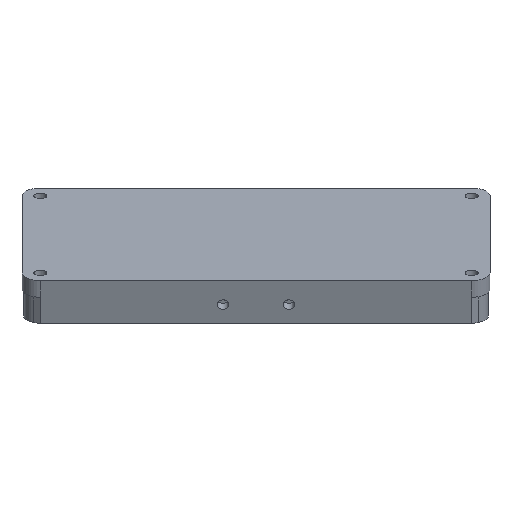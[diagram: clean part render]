
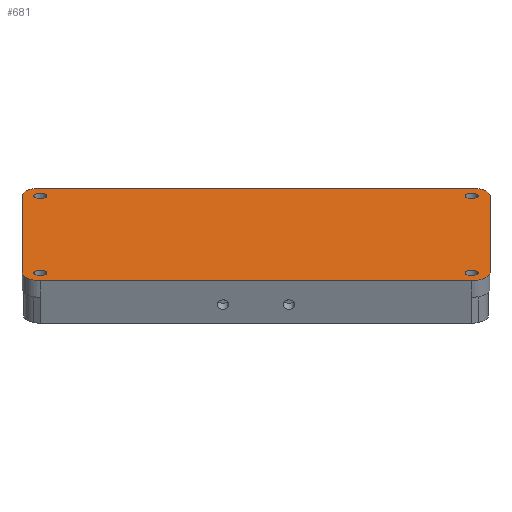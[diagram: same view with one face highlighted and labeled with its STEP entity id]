
A CAD part, top view. The second image highlights one B-rep face of the part: STEP entity #681.
In plain terms, the highlighted planar face has unit normal (0, 0.906, 0.423).
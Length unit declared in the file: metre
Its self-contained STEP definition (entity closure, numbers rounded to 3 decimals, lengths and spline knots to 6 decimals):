
#46=CIRCLE('',#752,0.0018);
#47=CIRCLE('',#753,0.0018);
#48=CIRCLE('',#754,0.0018);
#49=CIRCLE('',#755,0.0018);
#50=CIRCLE('',#756,0.005);
#51=CIRCLE('',#757,0.005);
#52=CIRCLE('',#758,0.005);
#53=CIRCLE('',#759,0.005);
#116=ORIENTED_EDGE('',*,*,#302,.T.);
#117=ORIENTED_EDGE('',*,*,#303,.T.);
#118=ORIENTED_EDGE('',*,*,#304,.T.);
#119=ORIENTED_EDGE('',*,*,#305,.T.);
#120=ORIENTED_EDGE('',*,*,#301,.T.);
#121=ORIENTED_EDGE('',*,*,#306,.T.);
#122=ORIENTED_EDGE('',*,*,#291,.F.);
#123=ORIENTED_EDGE('',*,*,#307,.T.);
#124=ORIENTED_EDGE('',*,*,#285,.F.);
#125=ORIENTED_EDGE('',*,*,#308,.T.);
#126=ORIENTED_EDGE('',*,*,#282,.T.);
#127=ORIENTED_EDGE('',*,*,#309,.T.);
#282=EDGE_CURVE('',#376,#377,#429,.T.);
#285=EDGE_CURVE('',#378,#379,#432,.T.);
#291=EDGE_CURVE('',#382,#383,#438,.T.);
#301=EDGE_CURVE('',#386,#389,#446,.T.);
#302=EDGE_CURVE('',#390,#390,#46,.T.);
#303=EDGE_CURVE('',#391,#391,#47,.T.);
#304=EDGE_CURVE('',#392,#392,#48,.T.);
#305=EDGE_CURVE('',#393,#393,#49,.T.);
#306=EDGE_CURVE('',#389,#383,#50,.F.);
#307=EDGE_CURVE('',#382,#379,#51,.F.);
#308=EDGE_CURVE('',#378,#376,#52,.F.);
#309=EDGE_CURVE('',#377,#386,#53,.F.);
#376=VERTEX_POINT('',#1083);
#377=VERTEX_POINT('',#1084);
#378=VERTEX_POINT('',#1089);
#379=VERTEX_POINT('',#1090);
#382=VERTEX_POINT('',#1100);
#383=VERTEX_POINT('',#1101);
#386=VERTEX_POINT('',#1110);
#389=VERTEX_POINT('',#1117);
#390=VERTEX_POINT('',#1121);
#391=VERTEX_POINT('',#1123);
#392=VERTEX_POINT('',#1125);
#393=VERTEX_POINT('',#1127);
#429=LINE('',#1082,#485);
#432=LINE('',#1088,#488);
#438=LINE('',#1099,#494);
#446=LINE('',#1118,#502);
#485=VECTOR('',#855,1.);
#488=VECTOR('',#860,1.);
#494=VECTOR('',#868,1.);
#502=VECTOR('',#882,1.);
#539=EDGE_LOOP('',(#116));
#540=EDGE_LOOP('',(#117));
#541=EDGE_LOOP('',(#118));
#542=EDGE_LOOP('',(#119));
#543=EDGE_LOOP('',(#120,#121,#122,#123,#124,#125,#126,#127));
#601=FACE_BOUND('',#539,.T.);
#602=FACE_BOUND('',#540,.T.);
#603=FACE_BOUND('',#541,.T.);
#604=FACE_BOUND('',#542,.T.);
#605=FACE_BOUND('',#543,.T.);
#658=PLANE('',#751);
#681=ADVANCED_FACE('',(#601,#602,#603,#604,#605),#658,.F.);
#751=AXIS2_PLACEMENT_3D('',#1119,#883,#884);
#752=AXIS2_PLACEMENT_3D('',#1120,#885,#886);
#753=AXIS2_PLACEMENT_3D('',#1122,#887,#888);
#754=AXIS2_PLACEMENT_3D('',#1124,#889,#890);
#755=AXIS2_PLACEMENT_3D('',#1126,#891,#892);
#756=AXIS2_PLACEMENT_3D('',#1128,#893,#894);
#757=AXIS2_PLACEMENT_3D('',#1129,#895,#896);
#758=AXIS2_PLACEMENT_3D('',#1130,#897,#898);
#759=AXIS2_PLACEMENT_3D('',#1131,#899,#900);
#855=DIRECTION('',(0.,-0.423,0.906));
#860=DIRECTION('',(1.,0.,0.));
#868=DIRECTION('',(0.,-0.423,0.906));
#882=DIRECTION('',(1.,0.,0.));
#883=DIRECTION('',(0.,-0.906,-0.423));
#884=DIRECTION('',(1.,0.,0.));
#885=DIRECTION('',(0.,-0.906,-0.423));
#886=DIRECTION('',(1.,0.,0.));
#887=DIRECTION('',(0.,-0.906,-0.423));
#888=DIRECTION('',(1.,0.,0.));
#889=DIRECTION('',(0.,-0.906,-0.423));
#890=DIRECTION('',(1.,0.,0.));
#891=DIRECTION('',(0.,-0.906,-0.423));
#892=DIRECTION('',(1.,0.,0.));
#893=DIRECTION('',(0.,-0.906,-0.423));
#894=DIRECTION('',(1.,0.,0.));
#895=DIRECTION('',(0.,-0.906,-0.423));
#896=DIRECTION('',(1.,0.,0.));
#897=DIRECTION('',(0.,-0.906,-0.423));
#898=DIRECTION('',(1.,0.,0.));
#899=DIRECTION('',(0.,-0.906,-0.423));
#900=DIRECTION('',(1.,0.,0.));
#1082=CARTESIAN_POINT('',(-0.063923,-0.213921,-0.002171));
#1083=CARTESIAN_POINT('',(-0.063923,-0.203356,-0.024829));
#1084=CARTESIAN_POINT('',(-0.063923,-0.224487,0.020487));
#1088=CARTESIAN_POINT('',(0.,-0.201243,-0.02936));
#1089=CARTESIAN_POINT('',(-0.058923,-0.201243,-0.02936));
#1090=CARTESIAN_POINT('',(0.058923,-0.201243,-0.02936));
#1099=CARTESIAN_POINT('',(0.063923,-0.213921,-0.002171));
#1100=CARTESIAN_POINT('',(0.063923,-0.203356,-0.024829));
#1101=CARTESIAN_POINT('',(0.063923,-0.224487,0.020487));
#1110=CARTESIAN_POINT('',(-0.058923,-0.2266,0.025018));
#1117=CARTESIAN_POINT('',(0.058923,-0.2266,0.025018));
#1118=CARTESIAN_POINT('',(0.,-0.2266,0.025018));
#1119=CARTESIAN_POINT('',(0.,-0.213921,-0.002171));
#1120=CARTESIAN_POINT('',(0.058923,-0.203356,-0.024829));
#1121=CARTESIAN_POINT('',(0.060723,-0.203356,-0.024829));
#1122=CARTESIAN_POINT('',(-0.058923,-0.203356,-0.024829));
#1123=CARTESIAN_POINT('',(-0.057123,-0.203356,-0.024829));
#1124=CARTESIAN_POINT('',(-0.058923,-0.224487,0.020487));
#1125=CARTESIAN_POINT('',(-0.057123,-0.224487,0.020487));
#1126=CARTESIAN_POINT('',(0.058923,-0.224487,0.020487));
#1127=CARTESIAN_POINT('',(0.060723,-0.224487,0.020487));
#1128=CARTESIAN_POINT('',(0.058923,-0.224487,0.020487));
#1129=CARTESIAN_POINT('',(0.058923,-0.203356,-0.024829));
#1130=CARTESIAN_POINT('',(-0.058923,-0.203356,-0.024829));
#1131=CARTESIAN_POINT('',(-0.058923,-0.224487,0.020487));
